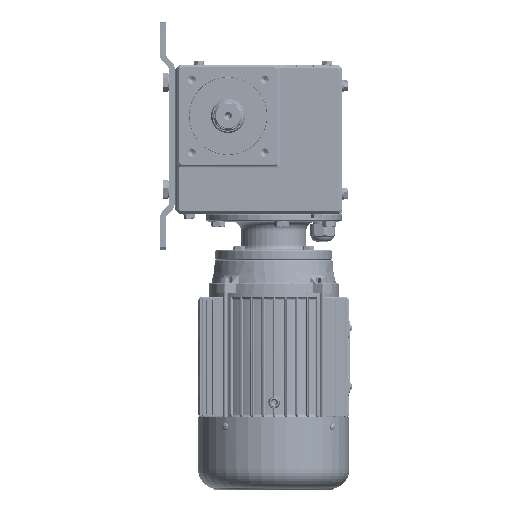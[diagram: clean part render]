
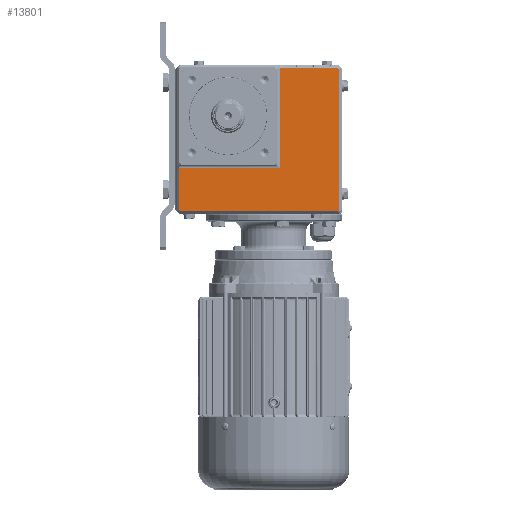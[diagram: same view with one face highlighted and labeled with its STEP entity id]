
A CAD part, top view. The second image highlights one B-rep face of the part: STEP entity #13801.
In plain terms, the highlighted planar face has unit normal (0, 0, 1) as drawn and (-1, 0, 0) by its records, which use the part's own axes.
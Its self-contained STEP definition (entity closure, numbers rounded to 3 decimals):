
#4420 = CARTESIAN_POINT ( 'NONE',  ( -96., 47.879, -97.8 ) ) ;
#13801 = ADVANCED_FACE ( 'NONE', ( #564778 ), #104084, .F. ) ;
#22655 = CARTESIAN_POINT ( 'NONE',  ( -96., -52., 49.5 ) ) ;
#26453 = ORIENTED_EDGE ( 'NONE', *, *, #223941, .T. ) ;
#29115 = VERTEX_POINT ( 'NONE', #403143 ) ;
#30193 = CARTESIAN_POINT ( 'NONE',  ( -96., -53.8, 49.5 ) ) ;
#31101 = AXIS2_PLACEMENT_3D ( 'NONE', #91683, #420121, #211616 ) ;
#40540 = VERTEX_POINT ( 'NONE', #461279 ) ;
#45096 = CARTESIAN_POINT ( 'NONE',  ( -96., -111.879, 49.5 ) ) ;
#46979 = CARTESIAN_POINT ( 'NONE',  ( -96., 50., -53.243 ) ) ;
#51529 = CARTESIAN_POINT ( 'NONE',  ( -96., -117., -97.8 ) ) ;
#54896 = CARTESIAN_POINT ( 'NONE',  ( -96., 50., -95.679 ) ) ;
#62519 = VECTOR ( 'NONE', #437384, 1000. ) ;
#70135 = ORIENTED_EDGE ( 'NONE', *, *, #144453, .T. ) ;
#75947 = EDGE_CURVE ( 'NONE', #280231, #424975, #111202, .T. ) ;
#84019 = CARTESIAN_POINT ( 'NONE',  ( -96., -54.121, 49.5 ) ) ;
#91683 = CARTESIAN_POINT ( 'NONE',  ( -96., 53., 52.5 ) ) ;
#92455 = CARTESIAN_POINT ( 'NONE',  ( -96., -111.879, 49.5 ) ) ;
#99889 = CARTESIAN_POINT ( 'NONE',  ( -96., -54.121, 49.5 ) ) ;
#104084 = PLANE ( 'NONE',  #31101 ) ;
#106620 = VECTOR ( 'NONE', #457214, 1000. ) ;
#111202 =( BOUNDED_CURVE ( )  B_SPLINE_CURVE ( 3, ( #84019, #30193, #440458, #595134 ),
 .UNSPECIFIED., .F., .F. ) 
 B_SPLINE_CURVE_WITH_KNOTS ( ( 4, 4 ),
 ( 5.76, 6.021 ),
 .UNSPECIFIED. ) 
 CURVE ( )  GEOMETRIC_REPRESENTATION_ITEM ( )  RATIONAL_B_SPLINE_CURVE ( ( 1., 0.994, 0.994, 1. ) ) 
 REPRESENTATION_ITEM ( '' )  );
#121422 = EDGE_CURVE ( 'NONE', #29115, #578187, #464698, .T. ) ;
#124314 = CARTESIAN_POINT ( 'NONE',  ( -96., -114., -97.024 ) ) ;
#144453 = EDGE_CURVE ( 'NONE', #40540, #29115, #365332, .T. ) ;
#152049 = ORIENTED_EDGE ( 'NONE', *, *, #455697, .T. ) ;
#162392 = EDGE_CURVE ( 'NONE', #267616, #258147, #660405, .T. ) ;
#167712 = CARTESIAN_POINT ( 'NONE',  ( -96., 50., -95.679 ) ) ;
#168103 = CARTESIAN_POINT ( 'NONE',  ( -96., -114., -95.679 ) ) ;
#171783 =( BOUNDED_CURVE ( )  B_SPLINE_CURVE ( 3, ( #487373, #638970, #124314, #168103 ),
 .UNSPECIFIED., .F., .F. ) 
 B_SPLINE_CURVE_WITH_KNOTS ( ( 4, 4 ),
 ( 2.618, 3.665 ),
 .UNSPECIFIED. ) 
 CURVE ( )  GEOMETRIC_REPRESENTATION_ITEM ( )  RATIONAL_B_SPLINE_CURVE ( ( 1., 0.911, 0.911, 1. ) ) 
 REPRESENTATION_ITEM ( '' )  );
#185069 = VERTEX_POINT ( 'NONE', #513654 ) ;
#207793 = VECTOR ( 'NONE', #459582, 1000. ) ;
#211616 = DIRECTION ( 'NONE',  ( 0., 1., 0. ) ) ;
#221220 = LINE ( 'NONE', #22655, #533365 ) ;
#223941 = EDGE_CURVE ( 'NONE', #424975, #613399, #336515, .T. ) ;
#224529 = DIRECTION ( 'NONE',  ( 0., 1., 0. ) ) ;
#243523 = CARTESIAN_POINT ( 'NONE',  ( -96., -113.224, 49.5 ) ) ;
#252612 = EDGE_CURVE ( 'NONE', #185069, #40540, #171783, .T. ) ;
#258147 = VERTEX_POINT ( 'NONE', #167712 ) ;
#259961 = DIRECTION ( 'NONE',  ( 0., 0., -1. ) ) ;
#267616 = VERTEX_POINT ( 'NONE', #386168 ) ;
#280231 = VERTEX_POINT ( 'NONE', #99889 ) ;
#282667 = CARTESIAN_POINT ( 'NONE',  ( -96., -53.243, -52. ) ) ;
#295259 = CARTESIAN_POINT ( 'NONE',  ( -96., 47.879, -97.8 ) ) ;
#295495 = EDGE_LOOP ( 'NONE', ( #444410, #450322, #70135, #606350, #440053, #449489, #26453, #519839, #661568, #152049 ) ) ;
#306486 = EDGE_CURVE ( 'NONE', #444782, #185069, #411294, .T. ) ;
#307124 = CARTESIAN_POINT ( 'NONE',  ( -96., 50., 52.5 ) ) ;
#322100 = VECTOR ( 'NONE', #616566, 1000. ) ;
#336515 = LINE ( 'NONE', #282667, #62519 ) ;
#340635 = CARTESIAN_POINT ( 'NONE',  ( -96., -53.243, 49.645 ) ) ;
#350788 =( BOUNDED_CURVE ( )  B_SPLINE_CURVE ( 3, ( #54896, #465068, #525458, #4420 ),
 .UNSPECIFIED., .F., .F. ) 
 B_SPLINE_CURVE_WITH_KNOTS ( ( 4, 4 ),
 ( 2.618, 3.665 ),
 .UNSPECIFIED. ) 
 CURVE ( )  GEOMETRIC_REPRESENTATION_ITEM ( )  RATIONAL_B_SPLINE_CURVE ( ( 1., 0.911, 0.911, 1. ) ) 
 REPRESENTATION_ITEM ( '' )  );
#350905 = EDGE_CURVE ( 'NONE', #578187, #280231, #221220, .T. ) ;
#365332 = LINE ( 'NONE', #563812, #207793 ) ;
#367265 = VECTOR ( 'NONE', #259961, 1000. ) ;
#371117 = EDGE_CURVE ( 'NONE', #613399, #267616, #507663, .T. ) ;
#386168 = CARTESIAN_POINT ( 'NONE',  ( -96., 50., -53.243 ) ) ;
#403143 = CARTESIAN_POINT ( 'NONE',  ( -96., -114., 47.379 ) ) ;
#411294 = LINE ( 'NONE', #51529, #322100 ) ;
#420121 = DIRECTION ( 'NONE',  ( 1., 0., 0. ) ) ;
#424975 = VERTEX_POINT ( 'NONE', #340635 ) ;
#437384 = DIRECTION ( 'NONE',  ( 0., 0., -1. ) ) ;
#440053 = ORIENTED_EDGE ( 'NONE', *, *, #350905, .T. ) ;
#440458 = CARTESIAN_POINT ( 'NONE',  ( -96., -53.505, 49.548 ) ) ;
#444410 = ORIENTED_EDGE ( 'NONE', *, *, #306486, .T. ) ;
#444782 = VERTEX_POINT ( 'NONE', #295259 ) ;
#449489 = ORIENTED_EDGE ( 'NONE', *, *, #75947, .T. ) ;
#450322 = ORIENTED_EDGE ( 'NONE', *, *, #252612, .T. ) ;
#455697 = EDGE_CURVE ( 'NONE', #258147, #444782, #350788, .T. ) ;
#457214 = DIRECTION ( 'NONE',  ( 0., 1., 0. ) ) ;
#459582 = DIRECTION ( 'NONE',  ( 0., 0., 1. ) ) ;
#461279 = CARTESIAN_POINT ( 'NONE',  ( -96., -114., -95.679 ) ) ;
#464698 =( BOUNDED_CURVE ( )  B_SPLINE_CURVE ( 3, ( #556118, #600021, #243523, #45096 ),
 .UNSPECIFIED., .F., .F. ) 
 B_SPLINE_CURVE_WITH_KNOTS ( ( 4, 4 ),
 ( 2.618, 3.665 ),
 .UNSPECIFIED. ) 
 CURVE ( )  GEOMETRIC_REPRESENTATION_ITEM ( )  RATIONAL_B_SPLINE_CURVE ( ( 1., 0.911, 0.911, 1. ) ) 
 REPRESENTATION_ITEM ( '' )  );
#465068 = CARTESIAN_POINT ( 'NONE',  ( -96., 50., -97.024 ) ) ;
#487373 = CARTESIAN_POINT ( 'NONE',  ( -96., -111.879, -97.8 ) ) ;
#492694 = CARTESIAN_POINT ( 'NONE',  ( -96., -53.243, -53.243 ) ) ;
#507663 = LINE ( 'NONE', #46979, #106620 ) ;
#513654 = CARTESIAN_POINT ( 'NONE',  ( -96., -111.879, -97.8 ) ) ;
#519839 = ORIENTED_EDGE ( 'NONE', *, *, #371117, .T. ) ;
#525458 = CARTESIAN_POINT ( 'NONE',  ( -96., 49.224, -97.8 ) ) ;
#533365 = VECTOR ( 'NONE', #224529, 1000. ) ;
#556118 = CARTESIAN_POINT ( 'NONE',  ( -96., -114., 47.379 ) ) ;
#563812 = CARTESIAN_POINT ( 'NONE',  ( -96., -114., 52.5 ) ) ;
#564778 = FACE_OUTER_BOUND ( 'NONE', #295495, .T. ) ;
#578187 = VERTEX_POINT ( 'NONE', #92455 ) ;
#595134 = CARTESIAN_POINT ( 'NONE',  ( -96., -53.243, 49.645 ) ) ;
#600021 = CARTESIAN_POINT ( 'NONE',  ( -96., -114., 48.724 ) ) ;
#606350 = ORIENTED_EDGE ( 'NONE', *, *, #121422, .T. ) ;
#613399 = VERTEX_POINT ( 'NONE', #492694 ) ;
#616566 = DIRECTION ( 'NONE',  ( 0., -1., 0. ) ) ;
#638970 = CARTESIAN_POINT ( 'NONE',  ( -96., -113.224, -97.8 ) ) ;
#660405 = LINE ( 'NONE', #307124, #367265 ) ;
#661568 = ORIENTED_EDGE ( 'NONE', *, *, #162392, .T. ) ;
